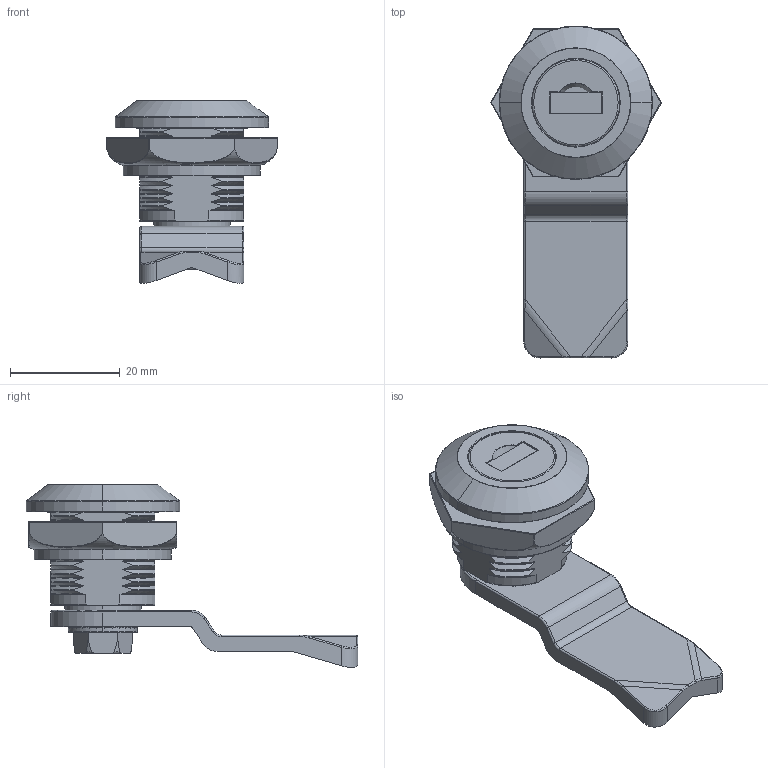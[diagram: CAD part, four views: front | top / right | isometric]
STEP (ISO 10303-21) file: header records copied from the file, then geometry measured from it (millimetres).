
FILE_DESCRIPTION (( 'STEP AP214' ), '1' );
FILE_NAME ('M22D-W.STEP', '2010-02-22T18:00:20', ( 'Rak' ), ( 'ROZTOCZE' ), 'SwSTEP 2.0', 'SolidWorks 2004231', '' );
FILE_SCHEMA (( 'AUTOMOTIVE_DESIGN' ));
Length unit declared in the file: millimetre
Products named in the file (1): M22D-W
Bounding box: 31.1 x 60.52 x 33.36 mm (x, y, z)
Volume: 15614.6 mm3; surface area: 10172.7 mm2
Topology: 8 solids, 8 shells, 553 faces, 1525 edges, 995 vertices
Faces by surface type: plane 177, torus 177, cylinder 92, cone 90, bspline 13, sphere 4
Entity records: 24505 total; most frequent: CARTESIAN_POINT 11288, ORIENTED_EDGE 3038, DIRECTION 2441, EDGE_CURVE 1519, VERTEX_POINT 991, AXIS2_PLACEMENT_3D 985, EDGE_LOOP 568, FACE_OUTER_BOUND 553
